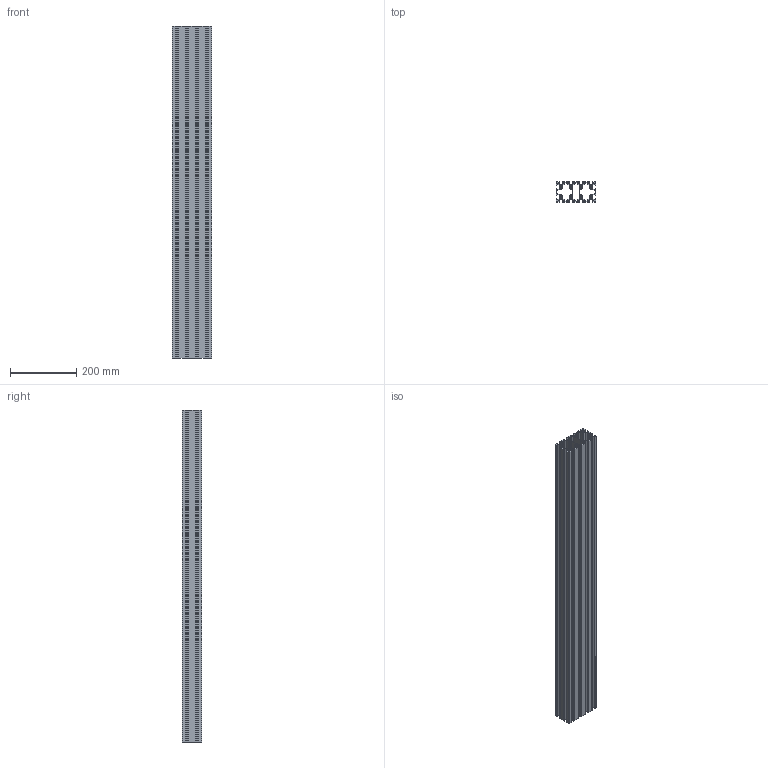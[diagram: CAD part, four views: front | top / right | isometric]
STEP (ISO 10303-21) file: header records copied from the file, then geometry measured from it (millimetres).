
FILE_DESCRIPTION (( 'STEP AP214' ), '1' );
FILE_NAME ('60õ120 ôèëüåðà V2.STEP', '2018-11-20T05:02:26', ( '' ), ( '' ), 'SwSTEP 2.0', 'SolidWorks 2014', '' );
FILE_SCHEMA (( 'AUTOMOTIVE_DESIGN' ));
Length unit declared in the file: millimetre
Products named in the file (2): 60õ120 ôèëüåðà V2
Bounding box: 120 x 60 x 1000 mm (x, y, z)
Volume: 1609927 mm3; surface area: 1404131.4 mm2
Topology: 1 solids, 1 shells, 358 faces, 1068 edges, 712 vertices
Faces by surface type: plane 286, cylinder 72
Entity records: 11977 total; most frequent: CARTESIAN_POINT 2140, ORIENTED_EDGE 2136, DIRECTION 1932, EDGE_CURVE 1068, VECTOR 924, LINE 924, VERTEX_POINT 712, AXIS2_PLACEMENT_3D 504
